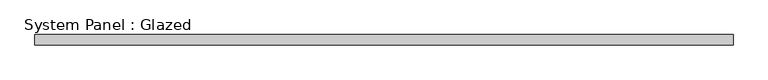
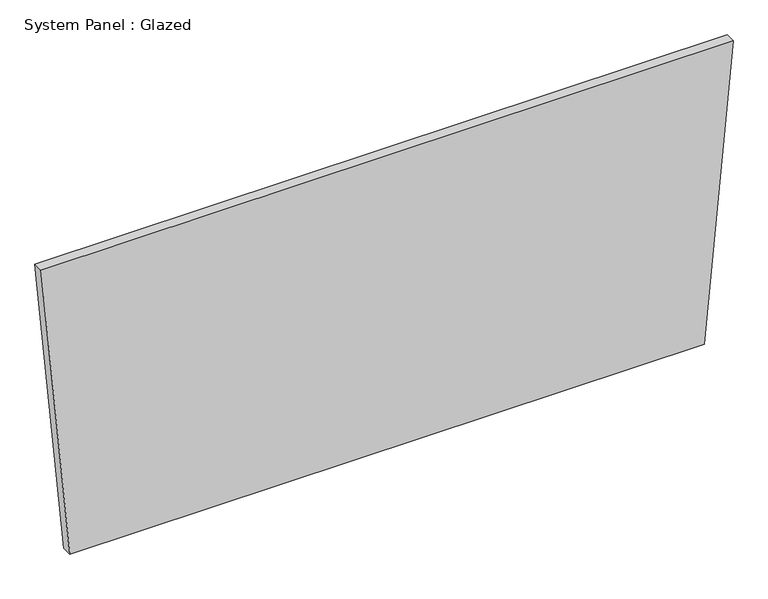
"""IFC4 building model written with IfcOpenShell, lengths in millimetres: plate geometry, System Panel : Glazed."""

import ifcopenshell
import ifcopenshell.guid

model = None  # the IFC model being written
_history = None  # IfcOwnerHistory: only IFC2X3 demands one
_inside = {}  # id of a spatial element -> (the spatial element, [elements in it])
_under = {}  # id of a project, library or spatial element -> (it, [spatial elements below it])
_declared = {}  # id of a project -> (the project, [libraries it declares])
_typed = {}  # id of a type object -> (the type object, [elements of that type])
_made_of = {}  # id of a material, layer set ... -> (it, [elements and type objects made of it])


def new_model(schema):
    """Start an empty IFC model of exactly this schema.

    Asked for "IFC4X3", IfcOpenShell would pick the latest addendum, in which some entities
    have other attributes; the version numbers below select the first issue.
    IFC2X3 requires an IfcOwnerHistory on every rooted entity: one is made here for all.
    """
    global model, _history
    if schema == "IFC4X3":
        model = ifcopenshell.file(schema_version=(4, 3, 0, 0))
    else:
        model = ifcopenshell.file(schema=schema)
    _inside.clear()
    _under.clear()
    _declared.clear()
    _typed.clear()
    _made_of.clear()
    _history = None
    if model.schema == "IFC2X3":
        org = make("IfcOrganization", Name="unknown")
        user = make(
            "IfcPersonAndOrganization",
            ThePerson=make("IfcPerson", FamilyName="unknown"),
            TheOrganization=org,
        )
        app = make(
            "IfcApplication",
            ApplicationDeveloper=org,
            Version="unknown",
            ApplicationFullName="unknown",
            ApplicationIdentifier="unknown",
        )
        _history = make(
            "IfcOwnerHistory",
            OwningUser=user,
            OwningApplication=app,
            ChangeAction="ADDED",
            CreationDate=0,
        )
    return model


def make(cls, **values):
    """One entity of the class cls with the attributes given. An attribute that is None is left unset."""
    return model.create_entity(
        cls, **{name: value for name, value in values.items() if value is not None}
    )


def rooted(cls, **values):
    """An entity with a GlobalId (a new one), such as an element, a storey or a relation."""
    return make(cls, GlobalId=ifcopenshell.guid.new(), OwnerHistory=_history, **values)


def si_unit(unit_type, name, prefix=None):
    """IfcSIUnit, for example si_unit("LENGTHUNIT", "METRE", prefix="MILLI")."""
    return make("IfcSIUnit", UnitType=unit_type, Prefix=prefix, Name=name)


def assignment(units):
    """IfcUnitAssignment: the units of a project."""
    return None if units is None else make("IfcUnitAssignment", Units=units)


def point(xyz):
    """IfcCartesianPoint."""
    return None if xyz is None else make("IfcCartesianPoint", Coordinates=xyz)


def direction(xyz):
    """IfcDirection."""
    return None if xyz is None else make("IfcDirection", DirectionRatios=xyz)


def frame(location, z_axis=None, x_axis=None):
    """IfcAxis2Placement3D, a coordinate frame: its origin and axes. An axis left out is left unset."""
    return make(
        "IfcAxis2Placement3D",
        Location=point(location),
        Axis=direction(z_axis),
        RefDirection=direction(x_axis),
    )


def origin():
    """The frame at (0, 0, 0) with its axes left unset."""
    return frame((0.0, 0.0, 0.0))


def place(relative_to, where):
    """IfcLocalPlacement: puts the frame where relative to a parent placement (None: the world)."""
    return make(
        "IfcLocalPlacement", PlacementRelTo=relative_to, RelativePlacement=where
    )


def context(
    kind, dimensions, precision=None, world=None, true_north=None, identifier=None
):
    """IfcGeometricRepresentationContext, for example the 3D "Model" context."""
    return make(
        "IfcGeometricRepresentationContext",
        ContextIdentifier=identifier,
        ContextType=kind,
        CoordinateSpaceDimension=dimensions,
        Precision=precision,
        WorldCoordinateSystem=world,
        TrueNorth=true_north,
    )


def project(units=None, contexts=None):
    """IfcProject with its units and contexts."""
    return rooted(
        "IfcProject",
        Name="project",
        RepresentationContexts=contexts,
        UnitsInContext=assignment(units),
    )


def spatial(cls, under=None, at=None, **own):
    """A site, building, storey or space (cls), placed at a placement, below another one or the project."""
    s = rooted(cls, ObjectPlacement=at, **own)
    if under is not None:
        _under.setdefault(under.id(), (under, []))[1].append(s)
    return s


def polyline(points):
    """IfcPolyline through the points."""
    return make("IfcPolyline", Points=[point(p) for p in points])


def outline(outer, holes=None, kind="AREA"):
    """IfcArbitraryClosedProfileDef: a profile drawn as a closed curve; with holes, ...WithVoids."""
    if holes is None:
        return make("IfcArbitraryClosedProfileDef", ProfileType=kind, OuterCurve=outer)
    return make(
        "IfcArbitraryProfileDefWithVoids",
        ProfileType=kind,
        OuterCurve=outer,
        InnerCurves=holes,
    )


def extrude(swept, where, along, depth):
    """IfcExtrudedAreaSolid: the profile swept, set in the frame where, extruded along a direction by depth."""
    return make(
        "IfcExtrudedAreaSolid",
        SweptArea=swept,
        Position=where,
        ExtrudedDirection=direction(along),
        Depth=depth,
    )


def shape(context_of_items, identifier, shape_type, items):
    """IfcShapeRepresentation: the items that make up one representation, for example the "Body"."""
    return make(
        "IfcShapeRepresentation",
        ContextOfItems=context_of_items,
        RepresentationIdentifier=identifier,
        RepresentationType=shape_type,
        Items=items,
    )


def source(mapping_origin, context_of_items, identifier, shape_type, items):
    """IfcRepresentationMap: a shape defined once, which mapped items show again and again."""
    return make(
        "IfcRepresentationMap",
        MappingOrigin=mapping_origin,
        MappedRepresentation=shape(context_of_items, identifier, shape_type, items),
    )


def transform(
    local_origin,
    x_axis=None,
    y_axis=None,
    z_axis=None,
    scale=None,
    scale2=None,
    scale3=None,
    uniform=True,
):
    """IfcCartesianTransformationOperator3D, or its non-uniform kind. x_axis, y_axis, z_axis: its Axis1, 2, 3."""
    if uniform:
        return make(
            "IfcCartesianTransformationOperator3D",
            Axis1=direction(x_axis),
            Axis2=direction(y_axis),
            LocalOrigin=point(local_origin),
            Scale=scale,
            Axis3=direction(z_axis),
        )
    return make(
        "IfcCartesianTransformationOperator3DnonUniform",
        Axis1=direction(x_axis),
        Axis2=direction(y_axis),
        LocalOrigin=point(local_origin),
        Scale=scale,
        Axis3=direction(z_axis),
        Scale2=scale2,
        Scale3=scale3,
    )


def mapped(mapping_source, mapping_target):
    """IfcMappedItem: shows the shape of a source again, moved by a transform."""
    return make(
        "IfcMappedItem", MappingSource=mapping_source, MappingTarget=mapping_target
    )


def made_of(thing, what):
    """Note that an element or type object is made of a material, layer set ...; save() writes the relation."""
    if what is not None:
        _made_of.setdefault(what.id(), (what, []))[1].append(thing)
    return thing


def element(
    cls,
    number,
    at=None,
    inside=None,
    cuts=None,
    type_object=None,
    material=None,
    context=None,
    identifier="Body",
    shape_type=None,
    held_by="IfcProductDefinitionShape",
    body=None,
    shapes=None,
    **own,
):
    """One element of the class cls, such as IfcWall. Its Tag is "e" and its number.

    at: its placement. inside: the storey or other place that contains it. cuts: it is an
    opening in that element (IfcRelVoidsElement). A single representation is given by context,
    identifier, shape_type and body (its items); several are given by shapes. held_by: the class
    of the entity that holds the representations. save() writes the other relations.
    """
    e = rooted(cls, Tag="e%d" % number, ObjectPlacement=at, **own)
    if body is not None:
        shapes = [shape(context, identifier, shape_type, body)]
    if shapes is not None:
        e.Representation = make(held_by, Representations=shapes)
    if inside is not None:
        _inside.setdefault(inside.id(), (inside, []))[1].append(e)
    if cuts is not None:
        rooted(
            "IfcRelVoidsElement", RelatingBuildingElement=cuts, RelatedOpeningElement=e
        )
    if type_object is not None:
        _typed.setdefault(type_object.id(), (type_object, []))[1].append(e)
    return made_of(e, material)


def aggregate(whole, parts):
    """IfcRelAggregates: a whole, such as a stair, and the parts it consists of."""
    return rooted("IfcRelAggregates", RelatingObject=whole, RelatedObjects=parts)


def save(model, path):
    """Write the relations noted so far, then the file.

    IfcRelAggregates (storeys below a building ...), IfcRelContainedInSpatialStructure (elements
    in a storey), IfcRelDefinesByType, IfcRelAssociatesMaterial and IfcRelDeclares: one each for
    every whole, place, type object, material and project.
    """
    for whole, parts in _under.values():
        aggregate(whole, parts)
    for where, things in _inside.values():
        rooted(
            "IfcRelContainedInSpatialStructure",
            RelatedElements=things,
            RelatingStructure=where,
        )
    for kind, things in _typed.values():
        rooted("IfcRelDefinesByType", RelatedObjects=things, RelatingType=kind)
    for what, things in _made_of.values():
        rooted("IfcRelAssociatesMaterial", RelatedObjects=things, RelatingMaterial=what)
    for by, libraries in _declared.values():
        rooted("IfcRelDeclares", RelatingContext=by, RelatedDefinitions=libraries)
    model.write(path)


def system_panel_glazed_80a4cad8(model_context):
    return source(origin(), model_context, "Body", "SweptSolid", [
        extrude(outline(polyline([(0.0, -774.9161741), (0.0, 774.9161741), (758.7366017, 845.363099), (758.7366017, -845.363099), (0.0, -774.9161741)])), frame((0.0, -44.45, 0.0), z_axis=(0.0, 1.0, 0.0), x_axis=(0.0, 0.0, 1.0)), (0.0, 0.0, 1.0), 25.4),
    ])


if __name__ == "__main__":
    model = new_model("IFC4")
    model_context = context("Model", 3, world=origin())
    ifc_project = project(units=[si_unit("LENGTHUNIT", "METRE", prefix="MILLI")], contexts=[model_context])
    site = spatial("IfcSite", under=ifc_project)
    building = spatial("IfcBuilding", under=site)
    placement = place(None, origin())
    system_panel_glazed_shape = system_panel_glazed_80a4cad8(model_context)
    element("IfcPlate", 1, ObjectType="System Panel : Glazed", at=placement, inside=building, context=model_context, shape_type="MappedRepresentation", body=[
        mapped(system_panel_glazed_shape, transform((0.0, 0.0, 0.0), x_axis=(1.0, 0.0, 0.0), y_axis=(0.0, 1.0, 0.0), z_axis=(0.0, 0.0, 1.0))),
    ])
    save(model, "model.ifc")
